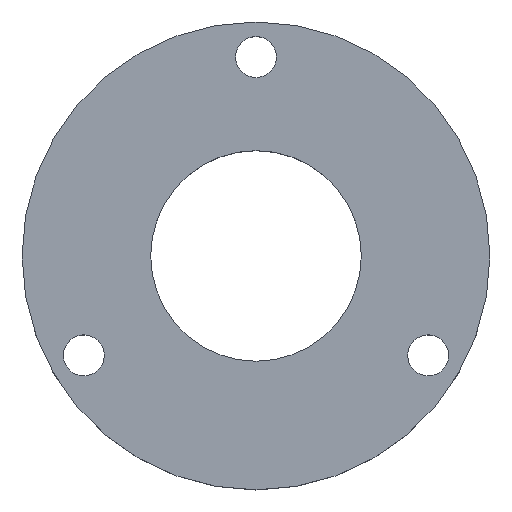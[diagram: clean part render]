
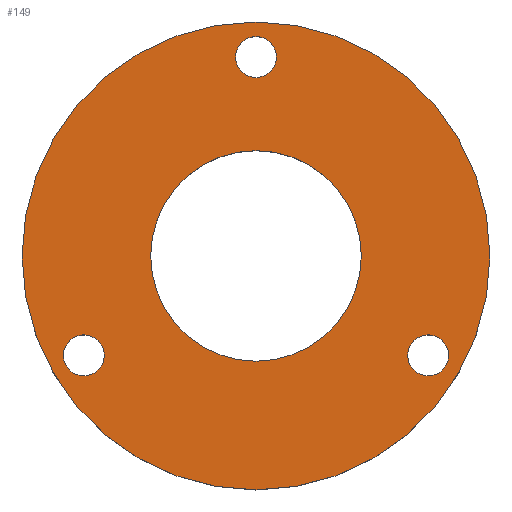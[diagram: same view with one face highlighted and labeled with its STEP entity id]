
A CAD part, top view. The second image highlights one B-rep face of the part: STEP entity #149.
In plain terms, the highlighted planar face has unit normal (0, 0, 1).
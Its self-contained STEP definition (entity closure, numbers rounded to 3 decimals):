
#2 = AXIS2_PLACEMENT_3D ( 'NONE', #429, #15, #263 ) ;
#15 = DIRECTION ( 'NONE',  ( 0., 0., -1. ) ) ;
#16 = CIRCLE ( 'NONE', #143, 20. ) ;
#26 = CARTESIAN_POINT ( 'NONE',  ( -12.972, -8.5, 0. ) ) ;
#28 = VERTEX_POINT ( 'NONE', #113 ) ;
#38 = CARTESIAN_POINT ( 'NONE',  ( -16.472, -8.5, 0. ) ) ;
#41 = AXIS2_PLACEMENT_3D ( 'NONE', #384, #292, #59 ) ;
#44 = DIRECTION ( 'NONE',  ( 0., 0., 1. ) ) ;
#48 = CARTESIAN_POINT ( 'NONE',  ( 14.722, -8.5, 0. ) ) ;
#52 = CARTESIAN_POINT ( 'NONE',  ( 16.472, -8.5, 0. ) ) ;
#54 = EDGE_CURVE ( 'NONE', #193, #382, #81, .T. ) ;
#57 = CARTESIAN_POINT ( 'NONE',  ( 0., 0., 0. ) ) ;
#58 = CIRCLE ( 'NONE', #115, 1.75 ) ;
#59 = DIRECTION ( 'NONE',  ( 1., 0., 0. ) ) ;
#68 = EDGE_CURVE ( 'NONE', #147, #209, #58, .T. ) ;
#71 = EDGE_LOOP ( 'NONE', ( #303, #240 ) ) ;
#72 = CIRCLE ( 'NONE', #130, 1.75 ) ;
#73 = AXIS2_PLACEMENT_3D ( 'NONE', #362, #163, #419 ) ;
#75 = VERTEX_POINT ( 'NONE', #324 ) ;
#76 = EDGE_CURVE ( 'NONE', #379, #28, #360, .T. ) ;
#77 = DIRECTION ( 'NONE',  ( 1., 0., 0. ) ) ;
#81 = CIRCLE ( 'NONE', #41, 1.75 ) ;
#82 = ORIENTED_EDGE ( 'NONE', *, *, #234, .F. ) ;
#90 = EDGE_CURVE ( 'NONE', #413, #378, #268, .T. ) ;
#93 = FACE_OUTER_BOUND ( 'NONE', #151, .T. ) ;
#96 = DIRECTION ( 'NONE',  ( 0., 0., 1. ) ) ;
#98 = CIRCLE ( 'NONE', #73, 1.75 ) ;
#99 = CIRCLE ( 'NONE', #418, 1.75 ) ;
#102 = ORIENTED_EDGE ( 'NONE', *, *, #68, .F. ) ;
#106 = AXIS2_PLACEMENT_3D ( 'NONE', #427, #391, #260 ) ;
#110 = CARTESIAN_POINT ( 'NONE',  ( -1.75, 17., 0. ) ) ;
#112 = CARTESIAN_POINT ( 'NONE',  ( 0., 0., 0. ) ) ;
#113 = CARTESIAN_POINT ( 'NONE',  ( 12.972, -8.5, 0. ) ) ;
#115 = AXIS2_PLACEMENT_3D ( 'NONE', #325, #96, #230 ) ;
#125 = CIRCLE ( 'NONE', #162, 9. ) ;
#129 = DIRECTION ( 'NONE',  ( 1., 0., 0. ) ) ;
#130 = AXIS2_PLACEMENT_3D ( 'NONE', #239, #180, #77 ) ;
#132 = CARTESIAN_POINT ( 'NONE',  ( 0., 0., 0. ) ) ;
#143 = AXIS2_PLACEMENT_3D ( 'NONE', #57, #196, #293 ) ;
#147 = VERTEX_POINT ( 'NONE', #26 ) ;
#149 = ADVANCED_FACE ( 'NONE', ( #265, #169, #423, #295, #93 ), #231, .F. ) ;
#151 = EDGE_LOOP ( 'NONE', ( #271, #352 ) ) ;
#156 = EDGE_CURVE ( 'NONE', #382, #193, #98, .T. ) ;
#162 = AXIS2_PLACEMENT_3D ( 'NONE', #112, #44, #381 ) ;
#163 = DIRECTION ( 'NONE',  ( 0., 0., 1. ) ) ;
#164 = EDGE_CURVE ( 'NONE', #175, #75, #16, .T. ) ;
#169 = FACE_BOUND ( 'NONE', #226, .T. ) ;
#175 = VERTEX_POINT ( 'NONE', #199 ) ;
#180 = DIRECTION ( 'NONE',  ( 0., 0., 1. ) ) ;
#182 = DIRECTION ( 'NONE',  ( 0., 0., 1. ) ) ;
#193 = VERTEX_POINT ( 'NONE', #367 ) ;
#196 = DIRECTION ( 'NONE',  ( 0., 0., 1. ) ) ;
#199 = CARTESIAN_POINT ( 'NONE',  ( -20., 0., 0. ) ) ;
#200 = EDGE_CURVE ( 'NONE', #75, #175, #336, .T. ) ;
#207 = EDGE_LOOP ( 'NONE', ( #246, #286 ) ) ;
#209 = VERTEX_POINT ( 'NONE', #38 ) ;
#226 = EDGE_LOOP ( 'NONE', ( #102, #82 ) ) ;
#230 = DIRECTION ( 'NONE',  ( 1., 0., 0. ) ) ;
#231 = PLANE ( 'NONE',  #2 ) ;
#234 = EDGE_CURVE ( 'NONE', #209, #147, #72, .T. ) ;
#239 = CARTESIAN_POINT ( 'NONE',  ( -14.722, -8.5, 0. ) ) ;
#240 = ORIENTED_EDGE ( 'NONE', *, *, #420, .F. ) ;
#242 = DIRECTION ( 'NONE',  ( 1., 0., 0. ) ) ;
#246 = ORIENTED_EDGE ( 'NONE', *, *, #54, .F. ) ;
#252 = ORIENTED_EDGE ( 'NONE', *, *, #354, .F. ) ;
#260 = DIRECTION ( 'NONE',  ( 1., 0., 0. ) ) ;
#263 = DIRECTION ( 'NONE',  ( -1., 0., 0. ) ) ;
#265 = FACE_BOUND ( 'NONE', #71, .T. ) ;
#267 = DIRECTION ( 'NONE',  ( 0., 0., 1. ) ) ;
#268 = CIRCLE ( 'NONE', #394, 9. ) ;
#271 = ORIENTED_EDGE ( 'NONE', *, *, #200, .T. ) ;
#272 = CARTESIAN_POINT ( 'NONE',  ( 0., 0., 0. ) ) ;
#285 = CARTESIAN_POINT ( 'NONE',  ( 9., 0., 0. ) ) ;
#286 = ORIENTED_EDGE ( 'NONE', *, *, #156, .F. ) ;
#292 = DIRECTION ( 'NONE',  ( 0., 0., 1. ) ) ;
#293 = DIRECTION ( 'NONE',  ( 1., 0., 0. ) ) ;
#295 = FACE_BOUND ( 'NONE', #368, .T. ) ;
#303 = ORIENTED_EDGE ( 'NONE', *, *, #76, .F. ) ;
#324 = CARTESIAN_POINT ( 'NONE',  ( 20., 0., 0. ) ) ;
#325 = CARTESIAN_POINT ( 'NONE',  ( -14.722, -8.5, 0. ) ) ;
#334 = ORIENTED_EDGE ( 'NONE', *, *, #90, .F. ) ;
#336 = CIRCLE ( 'NONE', #389, 20. ) ;
#342 = CARTESIAN_POINT ( 'NONE',  ( -9., 0., 0. ) ) ;
#352 = ORIENTED_EDGE ( 'NONE', *, *, #164, .T. ) ;
#354 = EDGE_CURVE ( 'NONE', #378, #413, #125, .T. ) ;
#358 = DIRECTION ( 'NONE',  ( 0., 0., 1. ) ) ;
#360 = CIRCLE ( 'NONE', #106, 1.75 ) ;
#362 = CARTESIAN_POINT ( 'NONE',  ( 0., 17., 0. ) ) ;
#367 = CARTESIAN_POINT ( 'NONE',  ( 1.75, 17., 0. ) ) ;
#368 = EDGE_LOOP ( 'NONE', ( #252, #334 ) ) ;
#378 = VERTEX_POINT ( 'NONE', #285 ) ;
#379 = VERTEX_POINT ( 'NONE', #52 ) ;
#381 = DIRECTION ( 'NONE',  ( 1., 0., 0. ) ) ;
#382 = VERTEX_POINT ( 'NONE', #110 ) ;
#384 = CARTESIAN_POINT ( 'NONE',  ( 0., 17., 0. ) ) ;
#389 = AXIS2_PLACEMENT_3D ( 'NONE', #272, #267, #242 ) ;
#391 = DIRECTION ( 'NONE',  ( 0., 0., 1. ) ) ;
#394 = AXIS2_PLACEMENT_3D ( 'NONE', #132, #358, #129 ) ;
#412 = DIRECTION ( 'NONE',  ( 1., 0., 0. ) ) ;
#413 = VERTEX_POINT ( 'NONE', #342 ) ;
#418 = AXIS2_PLACEMENT_3D ( 'NONE', #48, #182, #412 ) ;
#419 = DIRECTION ( 'NONE',  ( 1., 0., 0. ) ) ;
#420 = EDGE_CURVE ( 'NONE', #28, #379, #99, .T. ) ;
#423 = FACE_BOUND ( 'NONE', #207, .T. ) ;
#427 = CARTESIAN_POINT ( 'NONE',  ( 14.722, -8.5, 0. ) ) ;
#429 = CARTESIAN_POINT ( 'NONE',  ( 0., 20., 0. ) ) ;
